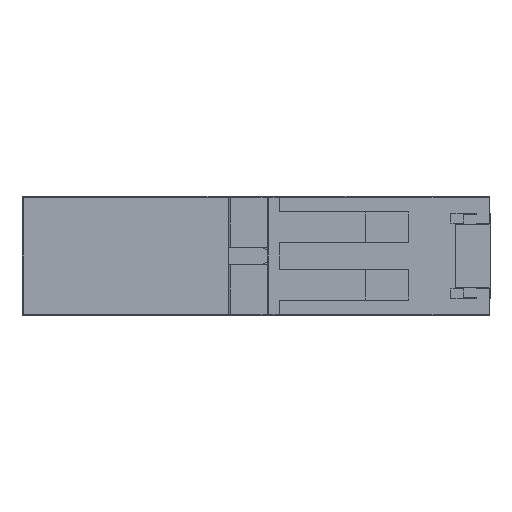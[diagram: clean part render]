
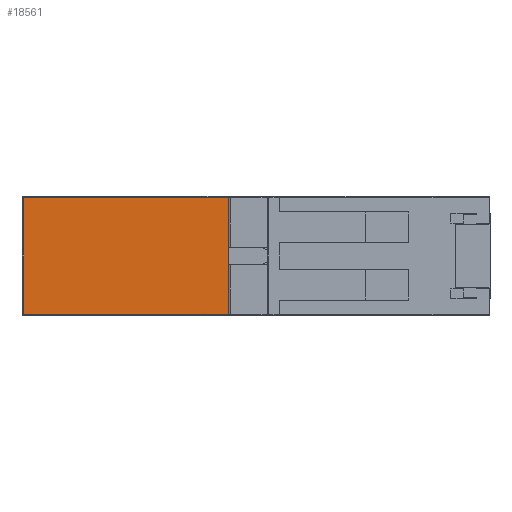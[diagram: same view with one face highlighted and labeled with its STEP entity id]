
A CAD part, left-side view. The second image highlights one B-rep face of the part: STEP entity #18561.
In plain terms, the highlighted planar face has unit normal (-1, 0, 0).
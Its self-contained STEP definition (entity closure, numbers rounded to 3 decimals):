
#305 = VERTEX_POINT ( 'NONE', #3972 ) ;
#421 = EDGE_CURVE ( 'NONE', #305, #16856, #5842, .T. ) ;
#600 = EDGE_CURVE ( 'NONE', #9192, #12753, #7701, .T. ) ;
#1410 = CARTESIAN_POINT ( 'NONE',  ( 35.647, 29.217, -1.15 ) ) ;
#1989 = EDGE_CURVE ( 'NONE', #10604, #5113, #29709, .T. ) ;
#2173 = CARTESIAN_POINT ( 'NONE',  ( 35.647, 29.217, 1.15 ) ) ;
#2422 = EDGE_LOOP ( 'NONE', ( #25640, #4541, #8990, #6820, #31231, #24399, #31005, #23900, #25703, #25081, #18176, #11601, #24257, #25991 ) ) ;
#2463 = VERTEX_POINT ( 'NONE', #11314 ) ;
#3081 = DIRECTION ( 'NONE',  ( 0., 0., -1. ) ) ;
#3890 = VECTOR ( 'NONE', #16295, 1000. ) ;
#3972 = CARTESIAN_POINT ( 'NONE',  ( 35.647, 22.317, 6.4 ) ) ;
#4082 = CARTESIAN_POINT ( 'NONE',  ( 35.647, 29.017, 6.2 ) ) ;
#4225 = VECTOR ( 'NONE', #3081, 1000. ) ;
#4338 = VERTEX_POINT ( 'NONE', #12392 ) ;
#4506 = DIRECTION ( 'NONE',  ( 0., 1., 0. ) ) ;
#4541 = ORIENTED_EDGE ( 'NONE', *, *, #1989, .T. ) ;
#4561 = LINE ( 'NONE', #20514, #29612 ) ;
#4590 = CARTESIAN_POINT ( 'NONE',  ( 35.647, 29.217, 7.8 ) ) ;
#4651 = VERTEX_POINT ( 'NONE', #25753 ) ;
#4660 = VECTOR ( 'NONE', #21564, 1000. ) ;
#4673 = EDGE_CURVE ( 'NONE', #4651, #16856, #20428, .T. ) ;
#5083 = VECTOR ( 'NONE', #4506, 1000. ) ;
#5113 = VERTEX_POINT ( 'NONE', #27499 ) ;
#5842 = LINE ( 'NONE', #11853, #5083 ) ;
#5977 = DIRECTION ( 'NONE',  ( 0., 0., 1. ) ) ;
#6137 = DIRECTION ( 'NONE',  ( 0., 1., 0. ) ) ;
#6304 = CARTESIAN_POINT ( 'NONE',  ( 35.647, 29.217, 7.8 ) ) ;
#6543 = DIRECTION ( 'NONE',  ( 0., 0., -1. ) ) ;
#6653 = CARTESIAN_POINT ( 'NONE',  ( 35.647, 22.317, -7.6 ) ) ;
#6820 = ORIENTED_EDGE ( 'NONE', *, *, #24225, .T. ) ;
#6849 = EDGE_CURVE ( 'NONE', #4651, #18932, #24096, .T. ) ;
#6947 = CARTESIAN_POINT ( 'NONE',  ( 35.647, 29.217, -6.2 ) ) ;
#7664 = CARTESIAN_POINT ( 'NONE',  ( 35.647, 29.217, 7.6 ) ) ;
#7701 = LINE ( 'NONE', #7664, #13440 ) ;
#8566 = LINE ( 'NONE', #8629, #15020 ) ;
#8629 = CARTESIAN_POINT ( 'NONE',  ( 35.647, 23.717, 1.15 ) ) ;
#8868 = CARTESIAN_POINT ( 'NONE',  ( 35.647, 22.317, 7.6 ) ) ;
#8973 = VERTEX_POINT ( 'NONE', #1410 ) ;
#8990 = ORIENTED_EDGE ( 'NONE', *, *, #11734, .F. ) ;
#9029 = LINE ( 'NONE', #29826, #14735 ) ;
#9192 = VERTEX_POINT ( 'NONE', #8868 ) ;
#10413 = DIRECTION ( 'NONE',  ( 0., 0., -1. ) ) ;
#10596 = DIRECTION ( 'NONE',  ( 0., 1., 0. ) ) ;
#10604 = VERTEX_POINT ( 'NONE', #15086 ) ;
#11314 = CARTESIAN_POINT ( 'NONE',  ( 35.647, 23.717, -1.15 ) ) ;
#11601 = ORIENTED_EDGE ( 'NONE', *, *, #421, .F. ) ;
#11734 = EDGE_CURVE ( 'NONE', #24952, #5113, #9029, .T. ) ;
#11736 = CIRCLE ( 'NONE', #18626, 0.2 ) ;
#11853 = CARTESIAN_POINT ( 'NONE',  ( 35.647, 22.317, 6.4 ) ) ;
#11981 = FACE_OUTER_BOUND ( 'NONE', #2422, .T. ) ;
#12295 = DIRECTION ( 'NONE',  ( 1., 0., 0. ) ) ;
#12392 = CARTESIAN_POINT ( 'NONE',  ( 35.647, 29.017, -6.4 ) ) ;
#12424 = LINE ( 'NONE', #13256, #24569 ) ;
#12502 = CARTESIAN_POINT ( 'NONE',  ( 35.647, 29.217, 7.8 ) ) ;
#12753 = VERTEX_POINT ( 'NONE', #24567 ) ;
#13044 = AXIS2_PLACEMENT_3D ( 'NONE', #12502, #29562, #15011 ) ;
#13256 = CARTESIAN_POINT ( 'NONE',  ( 35.647, 23.717, 1.15 ) ) ;
#13440 = VECTOR ( 'NONE', #19761, 1000. ) ;
#14735 = VECTOR ( 'NONE', #10413, 1000. ) ;
#15011 = DIRECTION ( 'NONE',  ( 0., 1., 0. ) ) ;
#15020 = VECTOR ( 'NONE', #25520, 1000. ) ;
#15086 = CARTESIAN_POINT ( 'NONE',  ( 35.647, 56.017, -7.6 ) ) ;
#16061 = CARTESIAN_POINT ( 'NONE',  ( 35.647, 22.317, -6.4 ) ) ;
#16065 = DIRECTION ( 'NONE',  ( 0., 0., -1. ) ) ;
#16295 = DIRECTION ( 'NONE',  ( 0., -1., 0. ) ) ;
#16856 = VERTEX_POINT ( 'NONE', #26700 ) ;
#17607 = VECTOR ( 'NONE', #16065, 1000. ) ;
#18176 = ORIENTED_EDGE ( 'NONE', *, *, #4673, .T. ) ;
#18391 = LINE ( 'NONE', #30346, #29764 ) ;
#18561 = ADVANCED_FACE ( 'NONE', ( #11981 ), #27117, .F. ) ;
#18626 = AXIS2_PLACEMENT_3D ( 'NONE', #26795, #12295, #29257 ) ;
#18932 = VERTEX_POINT ( 'NONE', #2173 ) ;
#19761 = DIRECTION ( 'NONE',  ( 0., 1., 0. ) ) ;
#19885 = LINE ( 'NONE', #27556, #26354 ) ;
#20428 = CIRCLE ( 'NONE', #26466, 0.2 ) ;
#20514 = CARTESIAN_POINT ( 'NONE',  ( 35.647, 22.317, 6.4 ) ) ;
#20744 = EDGE_CURVE ( 'NONE', #305, #9192, #4561, .T. ) ;
#21064 = DIRECTION ( 'NONE',  ( 1., 0., 0. ) ) ;
#21564 = DIRECTION ( 'NONE',  ( 0., 0., -1. ) ) ;
#21619 = EDGE_CURVE ( 'NONE', #4338, #24629, #11736, .T. ) ;
#22583 = EDGE_CURVE ( 'NONE', #26447, #18932, #12424, .T. ) ;
#22829 = LINE ( 'NONE', #29720, #4225 ) ;
#23163 = EDGE_CURVE ( 'NONE', #26447, #2463, #8566, .T. ) ;
#23274 = LINE ( 'NONE', #4590, #4660 ) ;
#23900 = ORIENTED_EDGE ( 'NONE', *, *, #23163, .F. ) ;
#24096 = LINE ( 'NONE', #6304, #17607 ) ;
#24123 = EDGE_CURVE ( 'NONE', #2463, #8973, #19885, .T. ) ;
#24225 = EDGE_CURVE ( 'NONE', #24952, #4338, #18391, .T. ) ;
#24257 = ORIENTED_EDGE ( 'NONE', *, *, #20744, .T. ) ;
#24399 = ORIENTED_EDGE ( 'NONE', *, *, #25102, .F. ) ;
#24567 = CARTESIAN_POINT ( 'NONE',  ( 35.647, 56.017, 7.6 ) ) ;
#24569 = VECTOR ( 'NONE', #30227, 1000. ) ;
#24629 = VERTEX_POINT ( 'NONE', #6947 ) ;
#24861 = CARTESIAN_POINT ( 'NONE',  ( 35.647, 23.717, 1.15 ) ) ;
#24952 = VERTEX_POINT ( 'NONE', #16061 ) ;
#25081 = ORIENTED_EDGE ( 'NONE', *, *, #6849, .F. ) ;
#25102 = EDGE_CURVE ( 'NONE', #8973, #24629, #23274, .T. ) ;
#25520 = DIRECTION ( 'NONE',  ( 0., 0., -1. ) ) ;
#25640 = ORIENTED_EDGE ( 'NONE', *, *, #27081, .T. ) ;
#25703 = ORIENTED_EDGE ( 'NONE', *, *, #22583, .T. ) ;
#25753 = CARTESIAN_POINT ( 'NONE',  ( 35.647, 29.217, 6.2 ) ) ;
#25991 = ORIENTED_EDGE ( 'NONE', *, *, #600, .T. ) ;
#26354 = VECTOR ( 'NONE', #10596, 1000. ) ;
#26447 = VERTEX_POINT ( 'NONE', #24861 ) ;
#26466 = AXIS2_PLACEMENT_3D ( 'NONE', #4082, #21064, #6543 ) ;
#26700 = CARTESIAN_POINT ( 'NONE',  ( 35.647, 29.017, 6.4 ) ) ;
#26795 = CARTESIAN_POINT ( 'NONE',  ( 35.647, 29.017, -6.2 ) ) ;
#27081 = EDGE_CURVE ( 'NONE', #12753, #10604, #22829, .T. ) ;
#27117 = PLANE ( 'NONE',  #13044 ) ;
#27499 = CARTESIAN_POINT ( 'NONE',  ( 35.647, 22.317, -7.6 ) ) ;
#27556 = CARTESIAN_POINT ( 'NONE',  ( 35.647, 23.717, -1.15 ) ) ;
#29257 = DIRECTION ( 'NONE',  ( 0., 0., -1. ) ) ;
#29562 = DIRECTION ( 'NONE',  ( 1., 0., 0. ) ) ;
#29612 = VECTOR ( 'NONE', #5977, 1000. ) ;
#29709 = LINE ( 'NONE', #6653, #3890 ) ;
#29720 = CARTESIAN_POINT ( 'NONE',  ( 35.647, 56.017, 7.8 ) ) ;
#29764 = VECTOR ( 'NONE', #6137, 1000. ) ;
#29826 = CARTESIAN_POINT ( 'NONE',  ( 35.647, 22.317, -6.4 ) ) ;
#30227 = DIRECTION ( 'NONE',  ( 0., 1., 0. ) ) ;
#30346 = CARTESIAN_POINT ( 'NONE',  ( 35.647, 22.317, -6.4 ) ) ;
#31005 = ORIENTED_EDGE ( 'NONE', *, *, #24123, .F. ) ;
#31231 = ORIENTED_EDGE ( 'NONE', *, *, #21619, .T. ) ;
